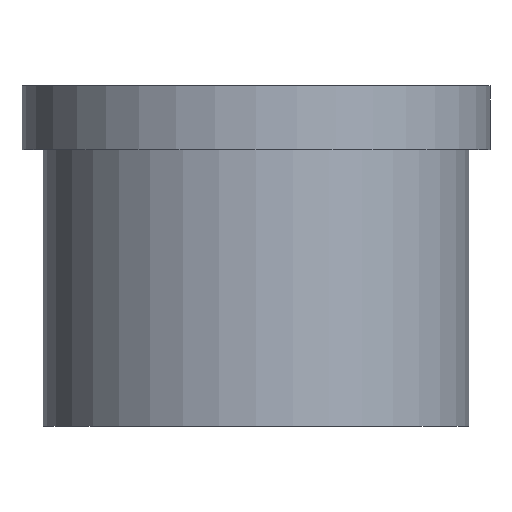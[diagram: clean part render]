
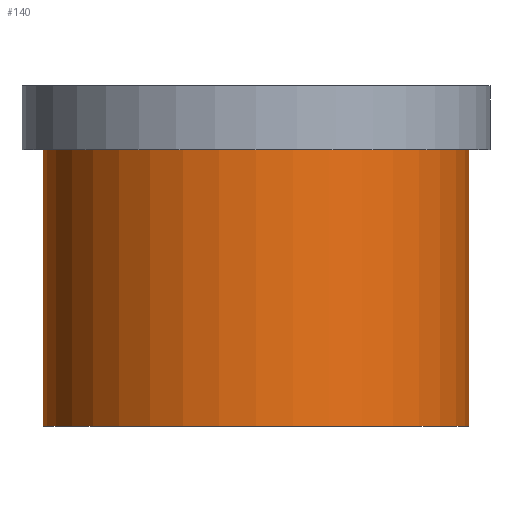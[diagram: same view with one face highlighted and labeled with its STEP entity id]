
A CAD part, front view. The second image highlights one B-rep face of the part: STEP entity #140.
In plain terms, the highlighted cylindrical face has radius 10 mm (diameter 20 mm), a partial arc.
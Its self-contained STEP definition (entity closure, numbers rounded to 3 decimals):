
#101=CYLINDRICAL_SURFACE('',#313,10.);
#107=LINE('',#441,#113);
#108=LINE('',#442,#114);
#113=VECTOR('',#383,1.);
#114=VECTOR('',#384,1.);
#127=FACE_OUTER_BOUND('',#165,.T.);
#140=ADVANCED_FACE('',(#127),#101,.T.);
#165=EDGE_LOOP('',(#211,#212,#213,#214));
#211=ORIENTED_EDGE('',*,*,#259,.T.);
#212=ORIENTED_EDGE('',*,*,#236,.F.);
#213=ORIENTED_EDGE('',*,*,#260,.F.);
#214=ORIENTED_EDGE('',*,*,#257,.T.);
#219=VERTEX_POINT('',#391);
#220=VERTEX_POINT('',#392);
#233=VERTEX_POINT('',#437);
#234=VERTEX_POINT('',#438);
#236=EDGE_CURVE('',#220,#219,#262,.T.);
#257=EDGE_CURVE('',#233,#234,#279,.T.);
#259=EDGE_CURVE('',#234,#219,#107,.T.);
#260=EDGE_CURVE('',#233,#220,#108,.T.);
#262=CIRCLE('',#283,10.);
#279=CIRCLE('',#310,10.);
#283=AXIS2_PLACEMENT_3D('',#393,#319,#320);
#310=AXIS2_PLACEMENT_3D('',#436,#377,#378);
#313=AXIS2_PLACEMENT_3D('',#443,#385,#386);
#319=DIRECTION('',(0.,0.,-1.));
#320=DIRECTION('',(0.,1.,0.));
#377=DIRECTION('',(0.,0.,-1.));
#378=DIRECTION('',(0.,1.,0.));
#383=DIRECTION('',(0.,0.,-1.));
#384=DIRECTION('',(0.,0.,-1.));
#385=DIRECTION('',(0.,0.,-1.));
#386=DIRECTION('',(0.,-1.,0.));
#391=CARTESIAN_POINT('',(-10.,0.,-13.));
#392=CARTESIAN_POINT('',(10.,0.,-13.));
#393=CARTESIAN_POINT('',(0.,0.,-13.));
#436=CARTESIAN_POINT('',(0.,0.,0.));
#437=CARTESIAN_POINT('',(10.,0.,0.));
#438=CARTESIAN_POINT('',(-10.,0.,0.));
#441=CARTESIAN_POINT('',(-10.,0.,-13.));
#442=CARTESIAN_POINT('',(10.,0.,-13.));
#443=CARTESIAN_POINT('',(0.,0.,0.));
